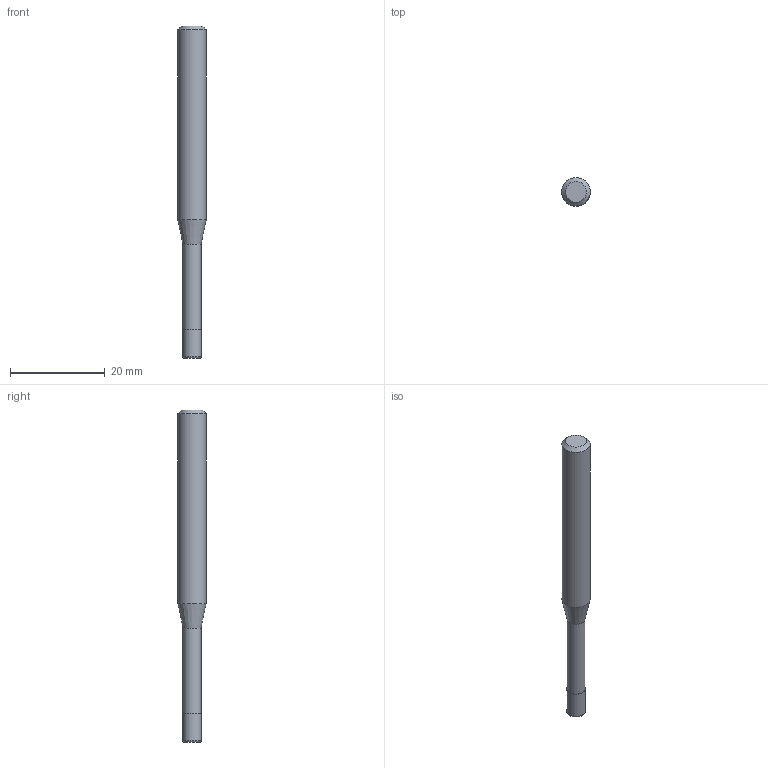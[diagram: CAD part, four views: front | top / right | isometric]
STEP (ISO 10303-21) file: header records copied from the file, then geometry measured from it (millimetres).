
FILE_DESCRIPTION((''),'2;1');
FILE_NAME('C:\Users\nsx150\AppData\Local\Temp\Mastercam 2021\17T8Q8S9EB\TEMP.step','2021-04-21T14:39:58',(''),(''),'STEP Write','Mastercam 2021 ... CNC Software, Inc.','');
FILE_SCHEMA(('AUTOMOTIVE_DESIGN'));
Length unit declared in the file: millimetre
Products named in the file (1): None
Bounding box: 6 x 6 x 70 mm (x, y, z)
Volume: 1527.3 mm3; surface area: 1194.7 mm2
Topology: 2 solids, 2 shells, 10 faces, 14 edges, 8 vertices
Faces by surface type: plane 4, cylinder 3, cone 2, torus 1
Full cylindrical faces by diameter (mm): 3.8 x1, 4 x1, 6 x1
Entity records: 232 total; most frequent: DIRECTION 40, CARTESIAN_POINT 28, AXIS2_PLACEMENT_3D 20, ORIENTED_EDGE 16, EDGE_LOOP 16, STYLED_ITEM 13, ADVANCED_FACE 10, FACE_BOUND 10
